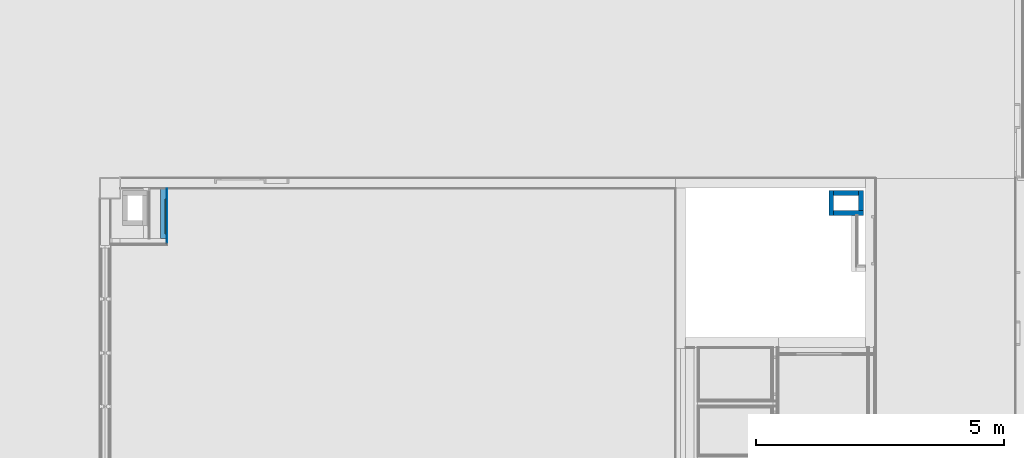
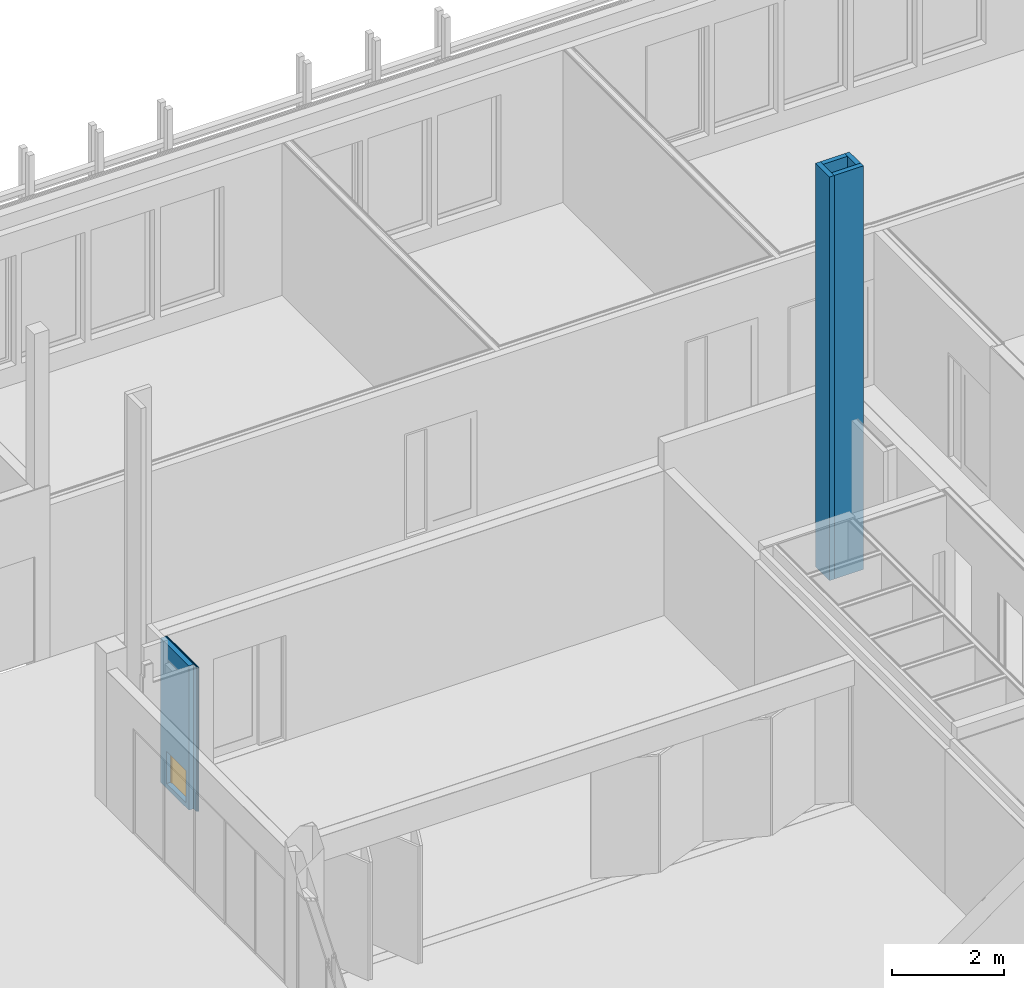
# One storey, part 21 of 139: 4 building element parts, 4 walls, 1 door, 1 opening, 1 element without a shape of its own.
"""IFC2X3 building model written with IfcOpenShell, lengths in millimetres."""

from ifc_helpers import new_model, entity, si_unit, converted_unit, derived_unit, money_unit, direction, frame, origin_with_axes, place, context, subcontext, project, spatial, faceted_brep, source, transform, mapped, material, type_object, element, fill, aggregate, save


model = new_model("IFC2X3")

# Units and contexts
model_context = context("Model", 3, precision=0.01, world=origin_with_axes(), true_north=direction((0.0, 1.0)))
body_context = subcontext(model_context, "Body", "Model", "MODEL_VIEW")
ifc_project = project(units=[si_unit("LENGTHUNIT", "METRE", prefix="MILLI"), si_unit("AREAUNIT", "SQUARE_METRE"), si_unit("VOLUMEUNIT", "CUBIC_METRE"), converted_unit("PLANEANGLEUNIT", "DEGREE", entity("IfcPlaneAngleMeasure", 0.0174532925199), si_unit("PLANEANGLEUNIT", "RADIAN"), dimensions=[0, 0, 0, 0, 0, 0, 0]), money_unit("EUR"), converted_unit("TIMEUNIT", "Year", entity("IfcTimeMeasure", 31556926.0), si_unit("TIMEUNIT", "SECOND"), dimensions=[0, 0, 1, 0, 0, 0, 0]), si_unit("MASSUNIT", "GRAM", prefix="KILO"), si_unit("THERMODYNAMICTEMPERATUREUNIT", "DEGREE_CELSIUS"), si_unit("LUMINOUSINTENSITYUNIT", "LUMEN"), si_unit("ENERGYUNIT", "JOULE", prefix="MEGA"), derived_unit("THERMALCONDUCTANCEUNIT", [(si_unit("POWERUNIT", "WATT"), 1), (si_unit("LENGTHUNIT", "METRE"), -1), (si_unit("THERMODYNAMICTEMPERATUREUNIT", "KELVIN"), -1)]), derived_unit("SPECIFICHEATCAPACITYUNIT", [(si_unit("ENERGYUNIT", "JOULE"), 1), (si_unit("MASSUNIT", "GRAM", prefix="KILO"), -1), (si_unit("THERMODYNAMICTEMPERATUREUNIT", "KELVIN"), -1)]), derived_unit("MASSDENSITYUNIT", [(si_unit("MASSUNIT", "GRAM", prefix="KILO"), 1), (si_unit("VOLUMEUNIT", "CUBIC_METRE"), -1)])], contexts=[model_context])

# Site, building, storey
site_placement = place(None, origin_with_axes())
site = spatial("IfcSite", under=ifc_project, at=site_placement, Name="Kolde pst 67a", CompositionType="ELEMENT")
building_placement = place(site_placement, origin_with_axes())
building = spatial("IfcBuilding", under=site, at=building_placement, Name="Riigigümnaasium", CompositionType="ELEMENT")
storey_placement = place(building_placement, frame((0.0, 0.0, 4600.0), z_axis=(0.0, 0.0, 1.0), x_axis=(1.0, 0.0, 0.0)))
storey = spatial("IfcBuildingStorey", under=building, at=storey_placement, Name="2. korrus", CompositionType="ELEMENT", Elevation=4600.0)

# Walls
ifc_material_1 = material(Name="_KANDETARIND - kergplokk Fibo 100mm")
wall_type_1 = type_object("IfcWallType", Name="SS-KP-10/3_viimistluseta 100", PredefinedType="NOTDEFINED")
wall_1_placement = place(storey_placement, frame((72839.9987778, 24189.9999753, 0.0), z_axis=(0.0, 0.0, 1.0), x_axis=(-3.77272043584e-09, -1.0, 0.0)))
element("IfcWall", 1, at=wall_1_placement, inside=storey, type_object=wall_type_1, material=ifc_material_1, Name="SE šaht", context=body_context, shape_type="Brep", body=[
    faceted_brep([(500.000752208, 1.88636306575e-06, 0.0), (0.0, 0.0, 0.0), (0.0, 100.0, 0.0), (500.000752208, 100.000001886, 0.0), (500.000752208, 1.88636306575e-06, 8805.0), (0.0, 0.0, 8805.0), (0.0, 100.0, 8805.0), (500.000752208, 100.000001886, 8805.0)], [[[0, 1, 2, 3]], [[4, 5, 1, 0]], [[2, 1, 5, 6]], [[3, 2, 6, 7]], [[3, 7, 4, 0]], [[7, 6, 5, 4]]]),
])
wall_2_placement = place(storey_placement, frame((72839.9987759, 23689.9992231, 0.0), z_axis=(0.0, 0.0, 1.0), x_axis=(1.0, -3.77273425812e-09, 0.0)))
element("IfcWall", 2, at=wall_2_placement, inside=storey, type_object=wall_type_1, material=ifc_material_1, Name="SE šaht", context=body_context, shape_type="Brep", body=[
    faceted_brep([(700.000752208, 2.64091681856e-06, 0.0), (100.0, 3.77273323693e-07, 0.0), (100.0, 100.000000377, 0.0), (700.000752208, 100.000002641, 0.0), (700.000752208, 2.64091681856e-06, 8805.0), (100.0, 3.77273323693e-07, 8805.0), (100.0, 100.000000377, 8805.0), (700.000752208, 100.000002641, 8805.0)], [[[0, 1, 2, 3]], [[4, 5, 1, 0]], [[2, 1, 5, 6]], [[3, 2, 6, 7]], [[3, 7, 4, 0]], [[7, 6, 5, 4]]]),
])
wall_3_placement = place(storey_placement, frame((73539.9995282, 23689.9992205, 0.0), z_axis=(0.0, 0.0, 1.0), x_axis=(3.77272045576e-09, 1.0, 0.0)))
element("IfcWall", 3, at=wall_3_placement, inside=storey, type_object=wall_type_1, material=ifc_material_1, Name="SE šaht", context=body_context, shape_type="Brep", body=[
    faceted_brep([(500.000752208, 1.88636306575e-06, 0.0), (100.0, 3.77269770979e-07, 0.0), (100.0, 100.000000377, 0.0), (500.000752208, 100.000001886, 0.0), (500.000752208, 1.88636306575e-06, 8805.0), (100.0, 3.77269770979e-07, 8805.0), (100.0, 100.000000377, 8805.0), (500.000752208, 100.000001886, 8805.0)], [[[0, 1, 2, 3]], [[4, 5, 1, 0]], [[2, 1, 5, 6]], [[3, 2, 6, 7]], [[3, 7, 4, 0]], [[7, 6, 5, 4]]]),
])
wall_4_placement = place(storey_placement, frame((73539.99953, 24189.9999727, 0.0), z_axis=(0.0, 0.0, 1.0), x_axis=(-1.0, 3.77273425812e-09, 0.0)))
element("IfcWall", 4, at=wall_4_placement, inside=storey, type_object=wall_type_1, material=ifc_material_1, Name="SE šaht", context=body_context, shape_type="Brep", body=[
    faceted_brep([(600.000752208, 2.26364349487e-06, 0.0), (100.0, 3.77273323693e-07, 0.0), (100.0, 100.000000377, 0.0), (600.000752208, 100.000002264, 0.0), (600.000752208, 2.26364349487e-06, 8805.0), (100.0, 3.77273323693e-07, 8805.0), (100.0, 100.000000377, 8805.0), (600.000752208, 100.000002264, 8805.0)], [[[0, 1, 2, 3]], [[4, 5, 1, 0]], [[2, 1, 5, 6]], [[3, 2, 6, 7]], [[3, 7, 4, 0]], [[7, 6, 5, 4]]]),
])

# Door
door_style = type_object("IfcDoorStyle", Name="Door 25", ConstructionType="NOTDEFINED", OperationType="SINGLE_SWING_LEFT", ParameterTakesPrecedence=False, Sizeable=False)
shared_shape = source(origin_with_axes(), body_context, "Body", "Brep", [
    faceted_brep([(320.0, -40.0, 0.0), (320.0, -50.0, 0.0), (320.0, -50.0, 670.0), (320.0, -40.0, 670.0), (332.0, -40.0, 0.0), (332.0, 0.0, 0.0), (350.0, 0.0, 0.0), (350.0, -50.0, 0.0), (350.0, -50.0, 670.0), (332.0, -40.0, 670.0), (350.0, 0.0, 670.0), (332.0, 0.0, 670.0)], [[[0, 1, 2, 3]], [[4, 5, 6, 7, 1, 0]], [[1, 7, 8, 2]], [[9, 3, 2, 8, 10, 11]], [[9, 4, 0, 3]], [[11, 5, 4, 9]], [[11, 10, 6, 5]], [[6, 10, 8, 7]]]),
    faceted_brep([(-332.0, -40.0, 670.0), (-332.0, 0.0, 670.0), (-350.0, 0.0, 670.0), (-350.0, -50.0, 670.0), (-320.0, -50.0, 670.0), (-320.0, -40.0, 670.0), (-332.0, -40.0, 0.0), (-332.0, 0.0, 0.0), (-350.0, 0.0, 0.0), (-350.0, -50.0, 0.0), (-320.0, -50.0, 0.0), (-320.0, -40.0, 0.0)], [[[0, 1, 2, 3, 4, 5]], [[0, 6, 7, 1]], [[7, 8, 2, 1]], [[2, 8, 9, 3]], [[3, 9, 10, 4]], [[5, 4, 10, 11]], [[5, 11, 6, 0]], [[6, 11, 10, 9, 8, 7]]]),
    faceted_brep([(332.0, 0.0, 682.0), (-332.0, 0.0, 682.0), (-332.0, 0.0, 670.0), (-350.0, 0.0, 670.0), (-350.0, 0.0, 700.0), (350.0, 0.0, 700.0), (350.0, 0.0, 670.0), (332.0, 0.0, 670.0), (332.0, -40.0, 682.0), (-332.0, -40.0, 682.0), (-332.0, -40.0, 670.0), (-320.0, -40.0, 670.0), (-320.0, -50.0, 670.0), (-350.0, -50.0, 670.0), (-350.0, -50.0, 700.0), (350.0, -50.0, 700.0), (350.0, -50.0, 670.0), (332.0, -40.0, 670.0), (320.0, -50.0, 670.0), (320.0, -40.0, 670.0)], [[[0, 1, 2, 3, 4, 5, 6, 7]], [[0, 8, 9, 1]], [[1, 9, 10, 2]], [[10, 11, 12, 13, 3, 2]], [[4, 3, 13, 14]], [[5, 4, 14, 15]], [[6, 5, 15, 16]], [[17, 7, 6, 16, 18, 19]], [[7, 17, 8, 0]], [[10, 9, 8, 17, 19, 11]], [[19, 18, 12, 11]], [[12, 18, 16, 15, 14, 13]]]),
    faceted_brep([(-332.0, 0.0, 0.0), (332.0, 0.0, 0.0), (332.0, -40.0, 0.0), (-332.0, -40.0, 0.0), (-332.0, 0.0, 682.0), (332.0, 0.0, 682.0), (332.0, -40.0, 682.0), (-332.0, -40.0, 682.0)], [[[0, 1, 2, 3]], [[0, 4, 5, 1]], [[1, 5, 6, 2]], [[3, 2, 6, 7]], [[4, 0, 3, 7]], [[5, 4, 7, 6]]]),
])
wall_5_placement = place(storey_placement, frame((59484.0614655, 23084.9999727, 0.0), z_axis=(0.0, 0.0, 1.0), x_axis=(0.0, 1.0, 0.0)))
opening_placement = place(wall_5_placement, frame((583.75, 0.0, 100.0), z_axis=(0.0, 0.0, 1.0), x_axis=(1.0, 0.0, 0.0)))
door_placement = place(opening_placement, frame((350.0, 0.0, 0.0), z_axis=(0.0, 0.0, 1.0), x_axis=(-1.0, 0.0, 0.0)))
door = element("IfcDoor", 5, at=door_placement, inside=storey, type_object=door_style, Name="Hooldusluuk vastavalt SA osale", ObjectType="DOOR", OverallHeight=700.0, OverallWidth=700.0, context=body_context, shape_type="MappedRepresentation", body=[
    mapped(shared_shape, transform((350.0, 0.0, 0.0))),
])

# Wall, opening
wall_type_2 = type_object("IfcWallType", Name="SS-MK-10/6_šahti sein+krohv 40 dB 135", PredefinedType="NOTDEFINED")
wall_5 = element("IfcWall", 6, at=wall_5_placement, inside=storey, type_object=wall_type_2, Name="Sisesein")
opening = element("IfcOpeningElement", 7, at=opening_placement, cuts=wall_5, Name="Hooldusluuk vastavalt SA osale", context=body_context, shape_type="Brep", body=[
    faceted_brep([(350.0, -270.0, 700.0), (350.0, -270.0, 0.0), (350.0, 135.0, 0.0), (350.0, 135.0, 700.0), (-350.0, -270.0, 700.0), (-350.0, -270.0, 0.0), (-350.0, 135.0, 0.0), (-350.0, 135.0, 700.0)], [[[0, 1, 2, 3]], [[0, 4, 5, 1]], [[1, 5, 6, 2]], [[3, 2, 6, 7]], [[4, 0, 3, 7]], [[5, 4, 7, 6]]]),
])

fill(opening, door)

# Building element part
ifc_material_2 = material(Name="_KARKASS - metallkarkass CW 100/50/06 ja UW 100/40/06, samm 600, vahel mineraalvill, helineeldetegur αw = 1.0,  ISOVER ACOUSTIC 100mm või samaväärne")
building_element_part_1_placement = place(wall_5_placement, origin_with_axes())
building_element_part_1 = element("IfcBuildingElementPart", 8, at=building_element_part_1_placement, material=ifc_material_2, Name="_KARKASS - metallkarkass CW 100/50/06 ja UW 100/40/06, samm 600, vahel mineraalvill, helineeldetegur αw = 1.0,  ISOVER ACOUSTIC 100mm või samaväärne", context=body_context, shape_type="Brep", body=[
    faceted_brep([(1145.0, 135.0, 3150.0), (1145.0, 135.0, 0.0), (135.0, 135.0, 0.0), (135.0, 135.0, 3150.0), (233.75, 135.0, 100.0), (933.75, 135.0, 100.0), (933.75, 135.0, 800.0), (233.75, 135.0, 800.0), (1145.0, 35.0, 3150.0), (1145.0, 35.0, 0.0), (135.0, 35.0, 0.0), (135.0, 35.0, 3150.0), (233.75, 35.0, 100.0), (933.75, 35.0, 100.0), (933.75, 35.0, 800.0), (233.75, 35.0, 800.0)], [[[0, 1, 2, 3], [4, 5, 6, 7]], [[8, 9, 1, 0]], [[1, 9, 10, 2]], [[3, 2, 10, 11]], [[8, 0, 3, 11]], [[12, 13, 5, 4]], [[13, 14, 6, 5]], [[14, 15, 7, 6]], [[15, 12, 4, 7]], [[11, 10, 9, 8], [12, 15, 14, 13]]]),
])

ifc_material_3 = material(Name="_PLAATMATERJAL - kipsplaat veekindel")
building_element_part_2_placement = place(wall_5_placement, origin_with_axes())
building_element_part_2 = element("IfcBuildingElementPart", 9, at=building_element_part_2_placement, material=ifc_material_3, Name="_PLAATMATERJAL - kipsplaat veekindel", context=body_context, shape_type="Brep", body=[
    faceted_brep([(1145.0, 35.0, 3150.0), (1145.0, 35.0, 0.0), (35.0, 35.0, 0.0), (35.0, 35.0, 3150.0), (233.75, 35.0, 100.0), (933.75, 35.0, 100.0), (933.75, 35.0, 800.0), (233.75, 35.0, 800.0), (1145.0, 22.5, 3150.0), (1145.0, 22.5, 0.0), (35.0, 22.5, 0.0), (35.0, 22.5, 3150.0), (233.75, 22.5, 100.0), (933.75, 22.5, 100.0), (933.75, 22.5, 800.0), (233.75, 22.5, 800.0)], [[[0, 1, 2, 3], [4, 5, 6, 7]], [[8, 9, 1, 0]], [[1, 9, 10, 2]], [[3, 2, 10, 11]], [[8, 0, 3, 11]], [[12, 13, 5, 4]], [[13, 14, 6, 5]], [[14, 15, 7, 6]], [[15, 12, 4, 7]], [[11, 10, 9, 8], [12, 15, 14, 13]]]),
])

building_element_part_3_placement = place(wall_5_placement, origin_with_axes())
building_element_part_3 = element("IfcBuildingElementPart", 10, at=building_element_part_3_placement, material=ifc_material_3, Name="_PLAATMATERJAL - kipsplaat veekindel", context=body_context, shape_type="Brep", body=[
    faceted_brep([(1145.0, 22.5, 3150.0), (1145.0, 22.5, 0.0), (22.5, 22.5, 0.0), (22.5, 22.5, 3150.0), (233.75, 22.5, 100.0), (933.75, 22.5, 100.0), (933.75, 22.5, 800.0), (233.75, 22.5, 800.0), (1145.0, 10.0, 3150.0), (1145.0, 10.0, 0.0), (22.5, 10.0, 0.0), (22.5, 10.0, 3150.0), (233.75, 10.0, 100.0), (933.75, 10.0, 100.0), (933.75, 10.0, 800.0), (233.75, 10.0, 800.0)], [[[0, 1, 2, 3], [4, 5, 6, 7]], [[8, 9, 1, 0]], [[1, 9, 10, 2]], [[3, 2, 10, 11]], [[8, 0, 3, 11]], [[12, 13, 5, 4]], [[13, 14, 6, 5]], [[14, 15, 7, 6]], [[15, 12, 4, 7]], [[11, 10, 9, 8], [12, 15, 14, 13]]]),
])

ifc_material_4 = material(Name="_VIIMISTLUSKIHT - viimistlus vastavalt SA osale")
building_element_part_4_placement = place(wall_5_placement, origin_with_axes())
building_element_part_4 = element("IfcBuildingElementPart", 11, at=building_element_part_4_placement, material=ifc_material_4, Name="_VIIMISTLUSKIHT - viimistlus vastavalt SA osale", context=body_context, shape_type="Brep", body=[
    faceted_brep([(1145.0, 10.0, 3150.0), (1145.0, 10.0, 0.0), (10.0, 10.0, 0.0), (10.0, 10.0, 3150.0), (233.75, 10.0, 100.0), (933.75, 10.0, 100.0), (933.75, 10.0, 800.0), (233.75, 10.0, 800.0), (1145.0, 0.0, 3150.0), (1145.0, 0.0, 0.0), (10.0, 0.0, 0.0), (10.0, 0.0, 3150.0), (233.75, 0.0, 100.0), (933.75, 0.0, 100.0), (933.75, 0.0, 800.0), (233.75, 0.0, 800.0)], [[[0, 1, 2, 3], [4, 5, 6, 7]], [[8, 9, 1, 0]], [[1, 9, 10, 2]], [[3, 2, 10, 11]], [[8, 0, 3, 11]], [[12, 13, 5, 4]], [[13, 14, 6, 5]], [[14, 15, 7, 6]], [[15, 12, 4, 7]], [[11, 10, 9, 8], [12, 15, 14, 13]]]),
])

aggregate(wall_5, [building_element_part_1, building_element_part_2, building_element_part_3, building_element_part_4])

save(model, "model.ifc")
